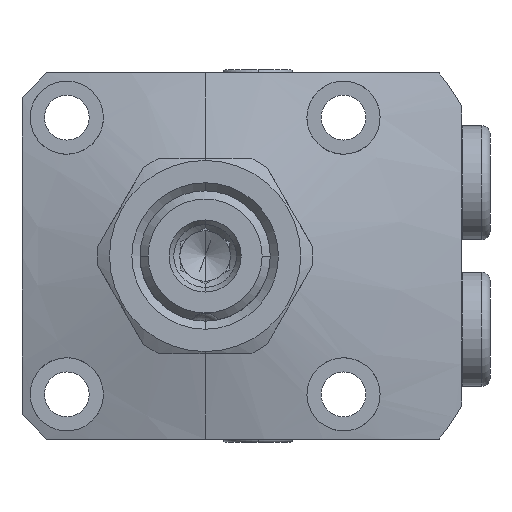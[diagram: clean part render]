
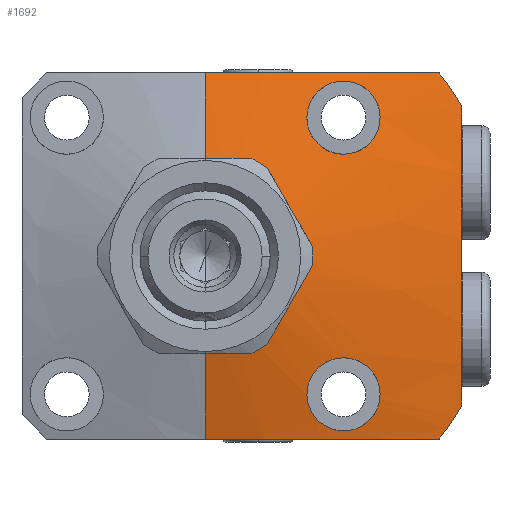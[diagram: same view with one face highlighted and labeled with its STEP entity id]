
A CAD part, left-side view. The second image highlights one B-rep face of the part: STEP entity #1692.
In plain terms, the highlighted conical face has half-angle 75 degrees and reference radius 12 mm.
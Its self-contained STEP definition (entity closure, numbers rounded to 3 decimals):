
#1219=FACE_BOUND('',#2396,.T.);
#1220=FACE_BOUND('',#2397,.T.);
#1221=FACE_BOUND('',#2398,.T.);
#1306=B_SPLINE_CURVE_WITH_KNOTS('',3,(#9825,#9826,#9827,#9828,#9829,#9830,
#9831,#9832,#9833,#9834),.UNSPECIFIED.,.F.,.F.,(4,2,2,2,4),(0.,0.25,0.5,
0.75,1.),.UNSPECIFIED.);
#1307=B_SPLINE_CURVE_WITH_KNOTS('',3,(#9843,#9844,#9845,#9846,#9847,#9848,
#9849,#9850,#9851,#9852),.UNSPECIFIED.,.F.,.F.,(4,2,2,2,4),(0.,0.25,0.5,
0.75,1.),.UNSPECIFIED.);
#1315=B_SPLINE_CURVE_WITH_KNOTS('',3,(#10192,#10193,#10194,#10195),
 .UNSPECIFIED.,.F.,.F.,(4,4),(0.,1.),.UNSPECIFIED.);
#1316=B_SPLINE_CURVE_WITH_KNOTS('',3,(#10204,#10205,#10206,#10207),
 .UNSPECIFIED.,.F.,.F.,(4,4),(0.,1.),.UNSPECIFIED.);
#1319=B_SPLINE_CURVE_WITH_KNOTS('',3,(#10308,#10309,#10310,#10311,#10312),
 .UNSPECIFIED.,.F.,.F.,(4,1,4),(0.,0.5,1.),.UNSPECIFIED.);
#1320=B_SPLINE_CURVE_WITH_KNOTS('',3,(#10313,#10314,#10315,#10316,#10317,
#10318,#10319,#10320,#10321,#10322),.UNSPECIFIED.,.F.,.F.,(4,2,2,2,4),(0.,
0.25,0.5,0.75,1.),.UNSPECIFIED.);
#1321=B_SPLINE_CURVE_WITH_KNOTS('',3,(#10323,#10324,#10325,#10326,#10327,
#10328,#10329,#10330,#10331,#10332),.UNSPECIFIED.,.F.,.F.,(4,2,2,2,4),(0.,
0.25,0.5,0.75,1.),.UNSPECIFIED.);
#1692=ADVANCED_FACE('',(#1219,#1220,#1221),#1805,.T.);
#1805=CONICAL_SURFACE('',#6556,12.,75.);
#2396=EDGE_LOOP('',(#4157,#4158,#4159,#4160,#4161,#4162,#4163,#4164));
#2397=EDGE_LOOP('',(#4165,#4166));
#2398=EDGE_LOOP('',(#4167,#4168));
#2661=LINE('',#9959,#2905);
#2662=LINE('',#9988,#2906);
#2905=VECTOR('',#7760,1.);
#2906=VECTOR('',#7761,1.);
#4157=ORIENTED_EDGE('',*,*,#5343,.T.);
#4158=ORIENTED_EDGE('',*,*,#5499,.F.);
#4159=ORIENTED_EDGE('',*,*,#5349,.F.);
#4160=ORIENTED_EDGE('',*,*,#5450,.F.);
#4161=ORIENTED_EDGE('',*,*,#5498,.T.);
#4162=ORIENTED_EDGE('',*,*,#5500,.F.);
#4163=ORIENTED_EDGE('',*,*,#5460,.T.);
#4164=ORIENTED_EDGE('',*,*,#5455,.F.);
#4165=ORIENTED_EDGE('',*,*,#5501,.F.);
#4166=ORIENTED_EDGE('',*,*,#5295,.F.);
#4167=ORIENTED_EDGE('',*,*,#5502,.F.);
#4168=ORIENTED_EDGE('',*,*,#5299,.F.);
#4696=VERTEX_POINT('',#9824);
#4697=VERTEX_POINT('',#9835);
#4700=VERTEX_POINT('',#9842);
#4701=VERTEX_POINT('',#9853);
#4732=VERTEX_POINT('',#9957);
#4733=VERTEX_POINT('',#9958);
#4734=VERTEX_POINT('',#9960);
#4739=VERTEX_POINT('',#9987);
#4814=VERTEX_POINT('',#10196);
#4817=VERTEX_POINT('',#10208);
#4820=VERTEX_POINT('',#10217);
#4827=VERTEX_POINT('',#10304);
#5295=EDGE_CURVE('',#4696,#4697,#1306,.T.);
#5299=EDGE_CURVE('',#4700,#4701,#1307,.T.);
#5343=EDGE_CURVE('',#4734,#4732,#2661,.T.);
#5349=EDGE_CURVE('',#4739,#4733,#2662,.T.);
#5450=EDGE_CURVE('',#4814,#4739,#1315,.T.);
#5455=EDGE_CURVE('',#4734,#4817,#1316,.T.);
#5460=EDGE_CURVE('',#4820,#4817,#5869,.T.);
#5498=EDGE_CURVE('',#4814,#4827,#5897,.T.);
#5499=EDGE_CURVE('',#4733,#4732,#5898,.T.);
#5500=EDGE_CURVE('',#4820,#4827,#1319,.T.);
#5501=EDGE_CURVE('',#4697,#4696,#1320,.T.);
#5502=EDGE_CURVE('',#4701,#4700,#1321,.T.);
#5869=CIRCLE('',#6494,36.5);
#5897=CIRCLE('',#6553,36.5);
#5898=CIRCLE('',#6555,12.);
#6494=AXIS2_PLACEMENT_3D('',#10216,#8000,#8001);
#6553=AXIS2_PLACEMENT_3D('',#10305,#8126,#8127);
#6555=AXIS2_PLACEMENT_3D('',#10307,#8130,#8131);
#6556=AXIS2_PLACEMENT_3D('',#10333,#8132,#8133);
#7760=DIRECTION('',(-0.259,0.,-0.966));
#7761=DIRECTION('',(-0.259,0.,0.966));
#8000=DIRECTION('',(-1.,0.,0.));
#8001=DIRECTION('',(0.,0.,1.));
#8126=DIRECTION('',(-1.,0.,0.));
#8127=DIRECTION('',(0.,0.,1.));
#8130=DIRECTION('',(-1.,0.,0.));
#8131=DIRECTION('',(0.,0.,1.));
#8132=DIRECTION('',(1.,0.,0.));
#8133=DIRECTION('',(0.,0.,1.));
#9824=CARTESIAN_POINT('',(-20.871,-17.,-21.5));
#9825=CARTESIAN_POINT('',(-20.871,-17.,-21.5));
#9826=CARTESIAN_POINT('',(-20.673,-18.192,-21.5));
#9827=CARTESIAN_POINT('',(-20.565,-19.376,-21.003));
#9828=CARTESIAN_POINT('',(-20.57,-21.047,-19.301));
#9829=CARTESIAN_POINT('',(-20.684,-21.52,-18.101));
#9830=CARTESIAN_POINT('',(-21.085,-21.478,-15.738));
#9831=CARTESIAN_POINT('',(-21.369,-20.975,-14.593));
#9832=CARTESIAN_POINT('',(-21.982,-19.315,-12.97));
#9833=CARTESIAN_POINT('',(-22.306,-18.181,-12.5));
#9834=CARTESIAN_POINT('',(-22.561,-17.,-12.5));
#9835=CARTESIAN_POINT('',(-22.561,-17.,-12.5));
#9842=CARTESIAN_POINT('',(-22.561,-17.,12.5));
#9843=CARTESIAN_POINT('',(-22.561,-17.,12.5));
#9844=CARTESIAN_POINT('',(-22.306,-18.182,12.5));
#9845=CARTESIAN_POINT('',(-21.981,-19.318,12.973));
#9846=CARTESIAN_POINT('',(-21.37,-20.972,14.589));
#9847=CARTESIAN_POINT('',(-21.085,-21.477,15.74));
#9848=CARTESIAN_POINT('',(-20.686,-21.522,18.088));
#9849=CARTESIAN_POINT('',(-20.571,-21.054,19.292));
#9850=CARTESIAN_POINT('',(-20.565,-19.377,21.005));
#9851=CARTESIAN_POINT('',(-20.673,-18.193,21.5));
#9852=CARTESIAN_POINT('',(-20.871,-17.,21.5));
#9853=CARTESIAN_POINT('',(-20.871,-17.,21.5));
#9957=CARTESIAN_POINT('',(-25.,0.,12.));
#9958=CARTESIAN_POINT('',(-25.,0.,-12.));
#9959=CARTESIAN_POINT('',(-25.,0.,12.));
#9960=CARTESIAN_POINT('',(-22.187,0.,22.5));
#9987=CARTESIAN_POINT('',(-22.187,0.,-22.5));
#9988=CARTESIAN_POINT('',(-25.,0.,-12.));
#10192=CARTESIAN_POINT('',(-18.435,-28.74,-22.5));
#10193=CARTESIAN_POINT('',(-20.436,-19.258,-22.5));
#10194=CARTESIAN_POINT('',(-22.187,-9.743,-22.5));
#10195=CARTESIAN_POINT('',(-22.187,0.,-22.5));
#10196=CARTESIAN_POINT('',(-18.435,-28.74,-22.5));
#10204=CARTESIAN_POINT('',(-22.187,0.,22.5));
#10205=CARTESIAN_POINT('',(-22.187,-9.722,22.5));
#10206=CARTESIAN_POINT('',(-20.436,-19.259,22.5));
#10207=CARTESIAN_POINT('',(-18.435,-28.74,22.5));
#10208=CARTESIAN_POINT('',(-18.435,-28.74,22.5));
#10216=CARTESIAN_POINT('',(-18.435,0.,0.));
#10217=CARTESIAN_POINT('',(-18.435,-31.5,18.439));
#10304=CARTESIAN_POINT('',(-18.435,-31.5,-18.439));
#10305=CARTESIAN_POINT('',(-18.435,0.,0.));
#10307=CARTESIAN_POINT('',(-25.,0.,0.));
#10308=CARTESIAN_POINT('',(-18.435,-31.5,18.439));
#10309=CARTESIAN_POINT('',(-19.267,-31.5,12.293));
#10310=CARTESIAN_POINT('',(-20.283,-31.5,0.));
#10311=CARTESIAN_POINT('',(-19.267,-31.5,-12.293));
#10312=CARTESIAN_POINT('',(-18.435,-31.5,-18.439));
#10313=CARTESIAN_POINT('',(-22.561,-17.,-12.5));
#10314=CARTESIAN_POINT('',(-22.817,-15.816,-12.5));
#10315=CARTESIAN_POINT('',(-22.982,-14.633,-12.991));
#10316=CARTESIAN_POINT('',(-22.976,-12.955,-14.694));
#10317=CARTESIAN_POINT('',(-22.804,-12.483,-15.891));
#10318=CARTESIAN_POINT('',(-22.29,-12.518,-18.242));
#10319=CARTESIAN_POINT('',(-21.962,-13.008,-19.379));
#10320=CARTESIAN_POINT('',(-21.35,-14.659,-21.015));
#10321=CARTESIAN_POINT('',(-21.07,-15.805,-21.5));
#10322=CARTESIAN_POINT('',(-20.871,-17.,-21.5));
#10323=CARTESIAN_POINT('',(-20.871,-17.,21.5));
#10324=CARTESIAN_POINT('',(-21.07,-15.805,21.5));
#10325=CARTESIAN_POINT('',(-21.351,-14.656,21.012));
#10326=CARTESIAN_POINT('',(-21.961,-13.011,19.382));
#10327=CARTESIAN_POINT('',(-22.291,-12.519,18.237));
#10328=CARTESIAN_POINT('',(-22.801,-12.482,15.906));
#10329=CARTESIAN_POINT('',(-22.975,-12.947,14.706));
#10330=CARTESIAN_POINT('',(-22.983,-14.631,12.99));
#10331=CARTESIAN_POINT('',(-22.817,-15.816,12.5));
#10332=CARTESIAN_POINT('',(-22.561,-17.,12.5));
#10333=CARTESIAN_POINT('',(-25.,0.,0.));
